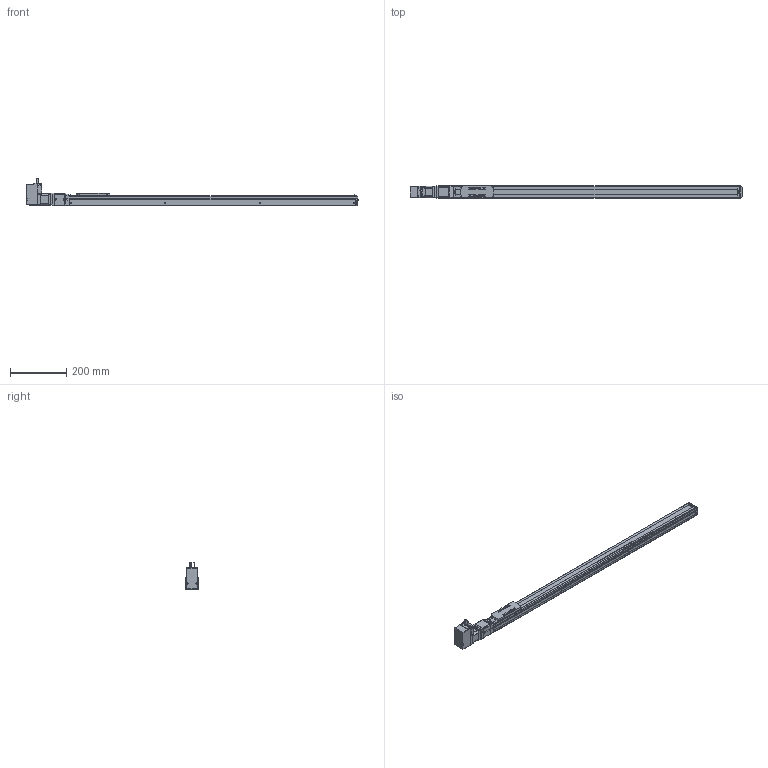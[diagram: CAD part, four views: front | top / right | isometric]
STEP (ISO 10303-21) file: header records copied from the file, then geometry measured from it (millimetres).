
FILE_DESCRIPTION(('FreeCAD Model'),'2;1');
FILE_NAME('Open CASCADE Shape Model','2023-08-01T18:35:32',('Author'),( ''),'Open CASCADE STEP processor 7.5','FreeCAD','Unknown');
FILE_SCHEMA(('AUTOMOTIVE_DESIGN { 1 0 10303 214 1 1 1 1 }'));
Length unit declared in the file: millimetre
Products named in the file (20): RCB0411; Shapes; Shapes001; Shapes002; Shapes003; Shapes004; Shapes005; Shapes006; Shapes007; Shapes008; Shapes009; Shapes010; Shapes011; Shapes012; Shapes013; KSF4-10-0850-0-AR(0); KSF4---(Cover); KSF4-AR---(Motor bracket); KSF4-10-0850---(slider); KSF4-10-0850-0-AR-(08500ARNo0)---(body)
Assembly tree (19 placements, depth 3):
  RCB0411
    Shapes
    Shapes001
    Shapes002
    Shapes003
    Shapes004
    Shapes005
    Shapes006
    Shapes007
    Shapes008
    Shapes009
    Shapes010
    Shapes011
    Shapes012
    Shapes013
    KSF4-10-0850-0-AR(0)
      KSF4---(Cover)
      KSF4-AR---(Motor bracket)
      KSF4-10-0850---(slider)
      KSF4-10-0850-0-AR-(08500ARNo0)---(body)
Bounding box: 1182 x 45.4 x 99.34 mm (x, y, z)
Volume: 1857736.4 mm3; surface area: 343077.6 mm2
Topology: 18 solids, 18 shells, 1309 faces, 3366 edges, 2196 vertices
Faces by surface type: plane 723, cylinder 436, cone 68, torus 53, bspline 19, revolution 6, sphere 4
Full cylindrical faces by diameter (mm): 2.113 x8, 2.459 x3, 3 x6, 3.242 x4, 3.4 x20, 4 x3, 4.5 x2, 5.5 x8, 6 x1, 6.5 x22, 8 x1, 12 x1, 22 x1, 28 x1, 30 x2
Entity records: 95226 total; most frequent: CARTESIAN_POINT 27234, DIRECTION 12781, LINE 7575, VECTOR 7575, ORIENTED_EDGE 6696, PCURVE 6696, DEFINITIONAL_REPRESENTATION 6696, EDGE_CURVE 3348
